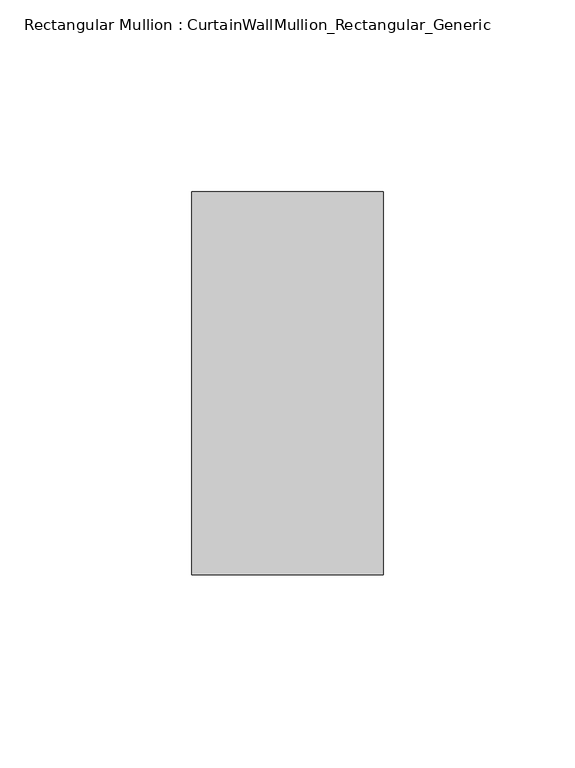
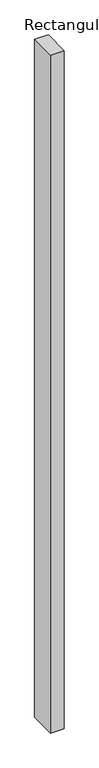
"""IFC4 building model written with IfcOpenShell, lengths in millimetres: member geometry, Rectangular Mullion : CurtainWallMullion_Rectangular_Generic."""

from ifc_helpers import new_model, si_unit, frame, origin, place, context, project, spatial, polyline, outline, extrude, source, transform, mapped, element, save


def rectangular_mullion_curtainwallmullion_rectangular_generic_a47ad83a(model_context):
    return source(origin(), model_context, "Body", "SweptSolid", [
        extrude(outline(polyline([(0.0, 50.0), (0.0, -50.0), (-50.0, -50.0), (-50.0, 50.0), (0.0, 50.0)])), frame((0.0, 0.0, -2618.3333335), z_axis=(0.0, 0.0, 1.0), x_axis=(1.0, 0.0, 0.0)), (0.0, 0.0, 1.0), 2618.3333335),
    ])


if __name__ == "__main__":
    model = new_model("IFC4")
    model_context = context("Model", 3, world=origin())
    ifc_project = project(units=[si_unit("LENGTHUNIT", "METRE", prefix="MILLI")], contexts=[model_context])
    site = spatial("IfcSite", under=ifc_project)
    building = spatial("IfcBuilding", under=site)
    placement = place(None, origin())
    rectangular_mullion_curtainwallmullion_rectangular_generic_shape = rectangular_mullion_curtainwallmullion_rectangular_generic_a47ad83a(model_context)
    element("IfcMember", 1, ObjectType="Rectangular Mullion : CurtainWallMullion_Rectangular_Generic", at=placement, inside=building, context=model_context, shape_type="MappedRepresentation", body=[
        mapped(rectangular_mullion_curtainwallmullion_rectangular_generic_shape, transform((0.0, 0.0, 0.0), x_axis=(1.0, 0.0, 0.0), y_axis=(0.0, 1.0, 0.0), z_axis=(0.0, 0.0, 1.0))),
    ])
    save(model, "model.ifc")
